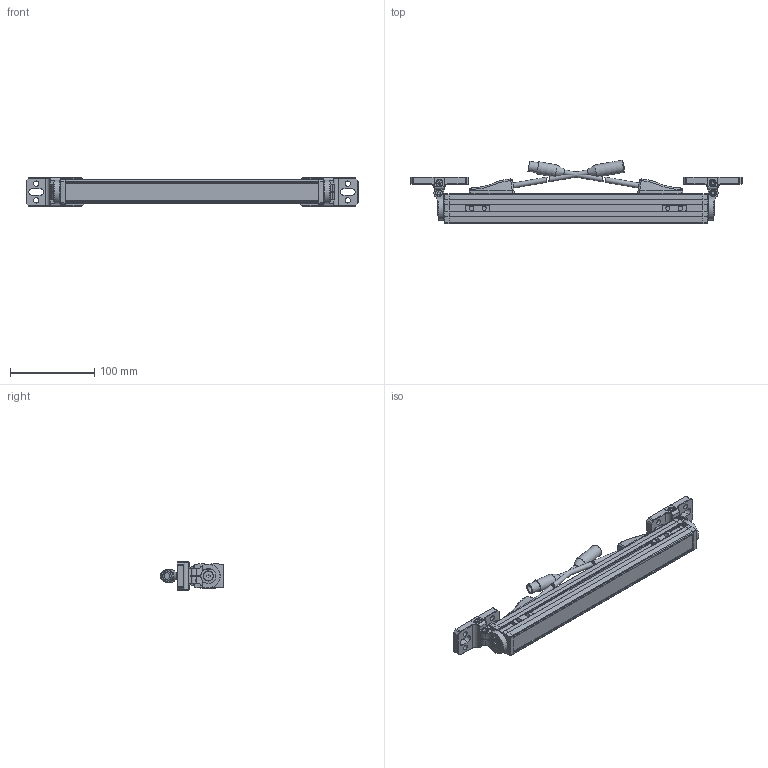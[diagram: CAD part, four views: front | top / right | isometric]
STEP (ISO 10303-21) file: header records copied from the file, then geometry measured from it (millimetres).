
FILE_DESCRIPTION((''),'2;1');
FILE_NAME('M:\INVENTORjob\Konstruktion\LV6036\Freigabe\Bauraummodelle\Geräte\stp\host - guest\MLC_R_300 MG.stp','2014-04-11T12:58:18',('seisen'),(''),'Autodesk Inventor 2009','Autodesk Inventor 2009','');
FILE_SCHEMA(('AUTOMOTIVE_DESIGN { 1 0 10303 214 1 1 1 1 }'));
Length unit declared in the file: millimetre
Products named in the file (19): MLC_R_300 MG; MLC_R_300_G_; Endkappe_T; Profil MLC 300; Endkappe_R; BT-R_Zubehör; Wandteil_Zubehör; Klemmring_BT-R_Zubehör; DIN 912 - ersetzt durch DIN EN ISO 4762 M5 x 12; DIN 934 - ersetzt durch DIN EN 24032/28673/28674 M5; DIN 6912 M5 x 30; Zylinder_Zubehör; DIN 7991 - ersetzt durch DIN EN ISO 10642 M6  x  10; Nutenstein M6; Anschluss input komplett; Tuellengehaeuse; CB-M12-500E-8FTP input; Anschluss output komplett; CB-M12-500E-8FTP output
Assembly tree (25 placements, depth 3):
  MLC_R_300 MG
    MLC_R_300_G_
      Endkappe_T
      Profil MLC 300
      Endkappe_R
    BT-R_Zubehör  x2
      Wandteil_Zubehör
      Klemmring_BT-R_Zubehör
      DIN 912 - ersetzt durch DIN EN ISO 4762 M5 x 12
      DIN 934 - ersetzt durch DIN EN 24032/28673/28674 M5
      DIN 6912 M5 x 30
    Zylinder_Zubehör  x2
    DIN 7991 - ersetzt durch DIN EN ISO 10642 M6  x  10  x2
    Nutenstein M6  x2
    Anschluss input komplett
      Tuellengehaeuse
      CB-M12-500E-8FTP input
    Anschluss output komplett
      Tuellengehaeuse
      CB-M12-500E-8FTP output
Bounding box: 394.91 x 75.58 x 34 mm (x, y, z)
Volume: 375664.8 mm3; surface area: 105457.2 mm2
Topology: 29 solids, 29 shells, 848 faces, 2157 edges, 1357 vertices
Faces by surface type: plane 366, cylinder 261, bspline 96, cone 52, torus 48, sphere 25
Full cylindrical faces by diameter (mm): 2.5 x2, 4.65 x2, 5 x12, 5.18 x2, 5.55 x2, 6 x6, 6.2 x10, 8 x1, 8.5 x5, 8.6 x2, 11 x1, 11.34 x2, 12 x3, 14.5 x2
Entity records: 12453 total; most frequent: CARTESIAN_POINT 3687, DIRECTION 1720, ORIENTED_EDGE 1666, EDGE_CURVE 833, AXIS2_PLACEMENT_3D 652, VERTEX_POINT 564, EDGE_LOOP 449, VECTOR 416
